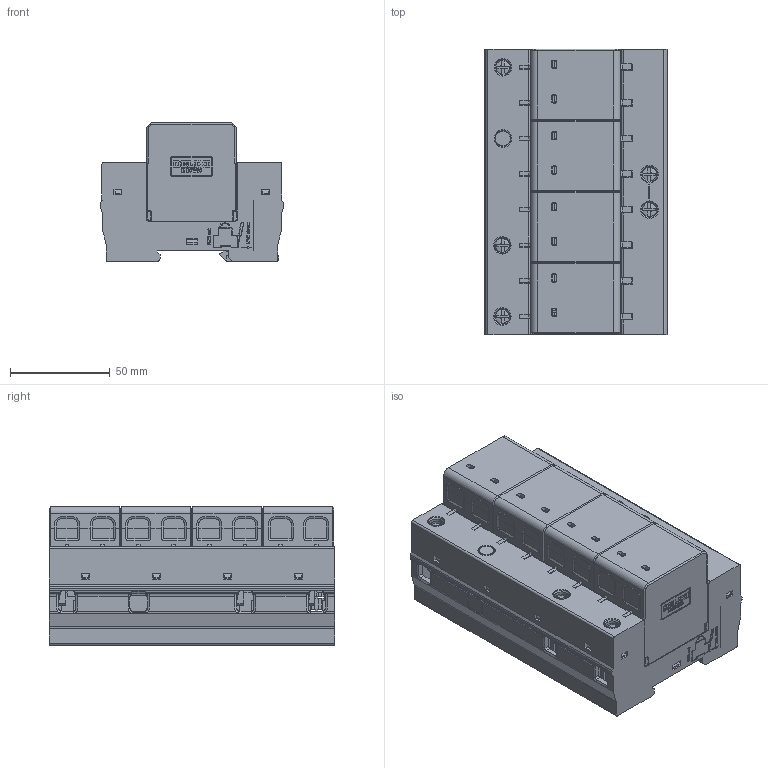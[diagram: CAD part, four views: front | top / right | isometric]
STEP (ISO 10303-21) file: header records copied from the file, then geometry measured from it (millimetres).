
FILE_DESCRIPTION((''),'2;1');
FILE_NAME('DZ47Y-120-4P_ASM','2021-11-19T',('linxiao.guan'),(''),'PRO/ENGINEER BY PARAMETRIC TECHNOLOGY CORPORATION, 2015440','PRO/ENGINEER BY PARAMETRIC TECHNOLOGY CORPORATION, 2015440','');
FILE_SCHEMA(('CONFIG_CONTROL_DESIGN'));
Products named in the file (16): BREP_WITH_VOIDS_197975_AF0; MANIFOLD_SOLID_BREP_199013; MANIFOLD_SOLID_BREP_200051; MANIFOLD_SOLID_BREP_201089; MANIFOLD_SOLID_BREP_202061; MANIFOLD_SOLID_BREP_203033; MANIFOLD_SOLID_BREP_203121; MANIFOLD_SOLID_BREP_203209; MANIFOLD_SOLID_BREP_203297; MANIFOLD_SOLID_BREP_203385; MANIFOLD_SOLID_BREP_204497; MANIFOLD_SOLID_BREP_205179_AF0; MANIFOLD_SOLID_BREP_205861_AF0; DZ47Y-120-4P_1_AF0_ASM; 8005034000; DZ47Y-120-4P_ASM
Assembly tree (18 placements, depth 3):
  DZ47Y-120-4P_ASM
    DZ47Y-120-4P_1_AF0_ASM
      BREP_WITH_VOIDS_197975_AF0
      MANIFOLD_SOLID_BREP_199013
      MANIFOLD_SOLID_BREP_200051
      MANIFOLD_SOLID_BREP_201089
      MANIFOLD_SOLID_BREP_202061
      MANIFOLD_SOLID_BREP_203033
      MANIFOLD_SOLID_BREP_203121
      MANIFOLD_SOLID_BREP_203209
      MANIFOLD_SOLID_BREP_203297
      MANIFOLD_SOLID_BREP_203385
      MANIFOLD_SOLID_BREP_204497
      MANIFOLD_SOLID_BREP_205179_AF0
      MANIFOLD_SOLID_BREP_205861_AF0
    8005034000  x4
Bounding box: 92 x 142.8 x 69.5 mm (x, y, z)
Volume: 214533.4 mm3; surface area: 253784.9 mm2
Topology: 15 solids, 19 shells, 9081 faces, 25905 edges, 17055 vertices
Faces by surface type: plane 8079, cylinder 756, cone 176, torus 38, sphere 20, bspline 12
Entity records: 217042 total; most frequent: CARTESIAN_POINT 41467, ORIENTED_EDGE 38326, DIRECTION 33301, EDGE_CURVE 19163, VECTOR 17445, LINE 17445, VERTEX_POINT 12603, AXIS2_PLACEMENT_3D 7928
